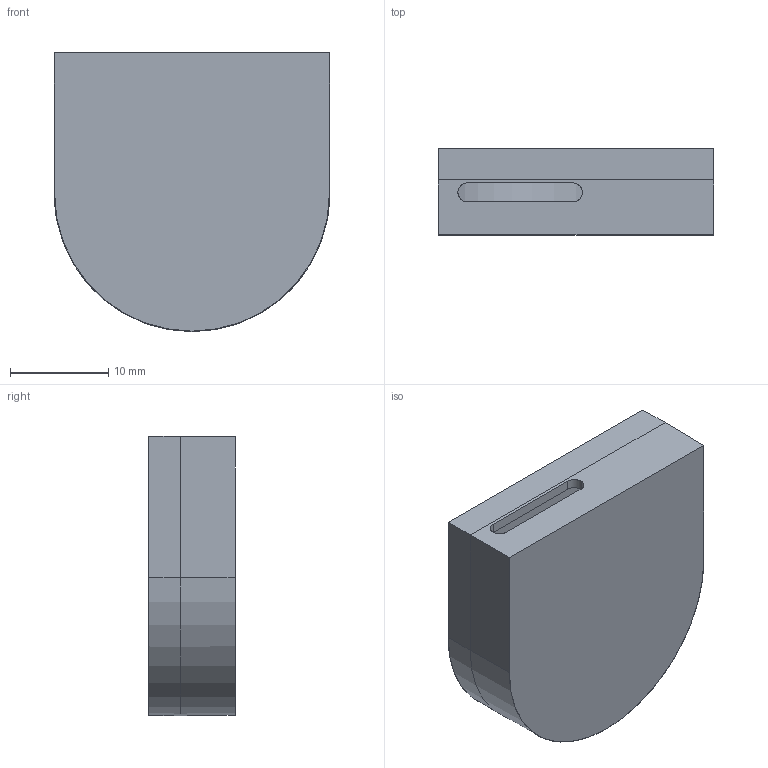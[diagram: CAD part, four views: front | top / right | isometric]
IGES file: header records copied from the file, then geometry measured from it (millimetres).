
Start section: SolidWorks IGES file using analytic representation for surfaces
Global section: file name: T:\Component Prints\Sketches\90298 REV A.IGS; native system: SolidWorks 2015; preprocessor: SolidWorks 2015; author: matts; date: 151106.133215; units: inch
Bounding box: 28.09 x 8.79 x 28.45 mm (x, y, z)
Surface area: 4214.3 mm2 (no closed solid volume)
Topology: 0 solids, 0 shells, 275 faces, 3347 edges, 3347 vertices
Faces by surface type: bspline 268, revolution 7
